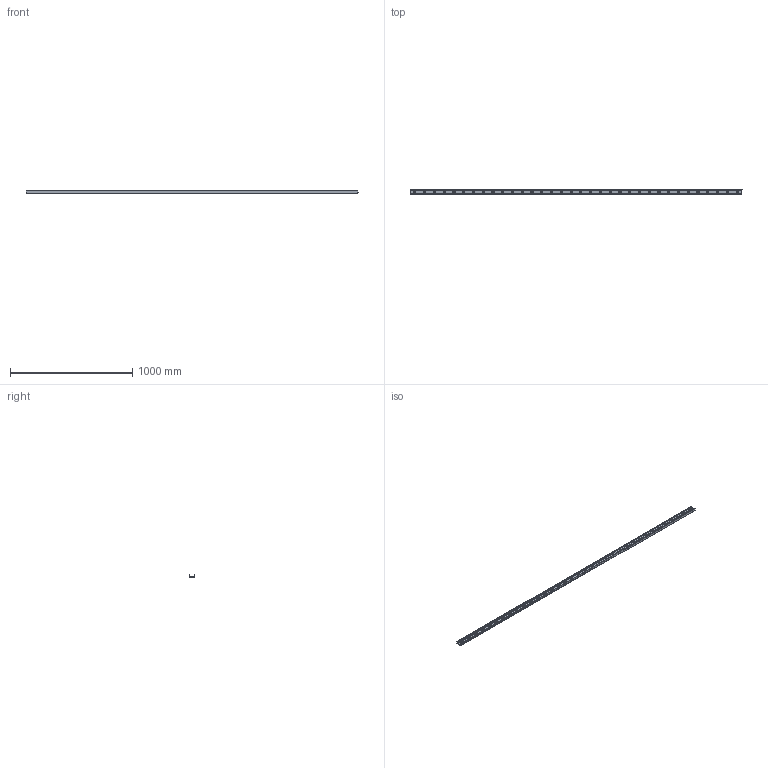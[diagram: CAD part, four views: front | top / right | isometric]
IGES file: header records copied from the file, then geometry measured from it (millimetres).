
Start section: SolidWorks IGES file using analytic representation for surfaces
Global section: file name: C:\Users\IanO\Desktop\43\L1943.ULC43_v2_20180121_IGES\L1943.ULC43-2720.igs; native system: SolidWorks 2017; preprocessor: SolidWorks 2017; author: IanO; date: 190121.085059; units: millimetre
Bounding box: 2720 x 43 x 21 mm (x, y, z)
Surface area: 426608.9 mm2 (no closed solid volume)
Topology: 0 solids, 0 shells, 196 faces, 5190 edges, 5190 vertices
Faces by surface type: revolution 149, bspline 47
